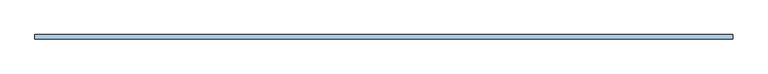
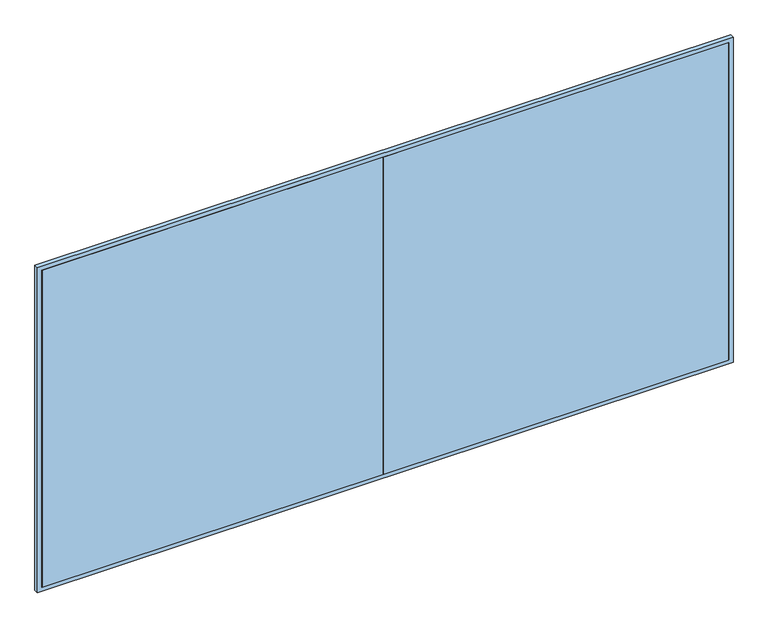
"""IFC4 building model written with IfcOpenShell, lengths in millimetres: window geometry, 2_10_Окно_Четверть_Управление : Тип 1."""

from ifc_helpers import new_model, si_unit, frame, origin, place, context, project, spatial, polyline, outline, extrude, source, transform, mapped, element, save


def window_2dbe628d(model_context):
    return source(origin(), model_context, "Body", "SweptSolid", [
        extrude(outline(polyline([(-2310.0, 125.0), (2560.0, 125.0), (2560.0, 95.0), (-2310.0, 95.0), (-2310.0, 125.0)])), frame((0.0, 0.0, 960.0), z_axis=(0.0, 0.0, 1.0), x_axis=(1.0, 0.0, 0.0)), (0.0, 0.0, 1.0), 2380.0),
        extrude(outline(polyline([(140.0, 125.0), (140.0, 95.0), (110.0, 95.0), (110.0, 125.0), (140.0, 125.0)])), frame((0.0, 0.0, 960.0), z_axis=(0.0, 0.0, 1.0), x_axis=(1.0, 0.0, 0.0)), (0.0, 0.0, 1.0), 2380.0),
        extrude(outline(polyline([(3370.0, 2595.0), (3370.0, -2345.0), (930.0, -2345.0), (930.0, 2595.0), (3370.0, 2595.0)]), holes=[polyline([(960.0, 2565.0), (960.0, -2315.0), (3340.0, -2315.0), (3340.0, 2565.0), (960.0, 2565.0)])]), frame((0.0, 95.0, 0.0), z_axis=(0.0, 1.0, 0.0), x_axis=(0.0, 0.0, 1.0)), (0.0, 0.0, 1.0), 30.0),
    ])


if __name__ == "__main__":
    model = new_model("IFC4")
    model_context = context("Model", 3, world=origin())
    ifc_project = project(units=[si_unit("LENGTHUNIT", "METRE", prefix="MILLI")], contexts=[model_context])
    site = spatial("IfcSite", under=ifc_project)
    building = spatial("IfcBuilding", under=site)
    placement = place(None, origin())
    window_shape = window_2dbe628d(model_context)
    element("IfcWindow", 1, ObjectType="2_10_Окно_Четверть_Управление : Тип 1", at=placement, inside=building, context=model_context, shape_type="MappedRepresentation", body=[
        mapped(window_shape, transform((0.0, 0.0, 0.0), x_axis=(1.0, 0.0, 0.0), y_axis=(0.0, 1.0, 0.0), z_axis=(0.0, 0.0, 1.0))),
    ])
    save(model, "model.ifc")
